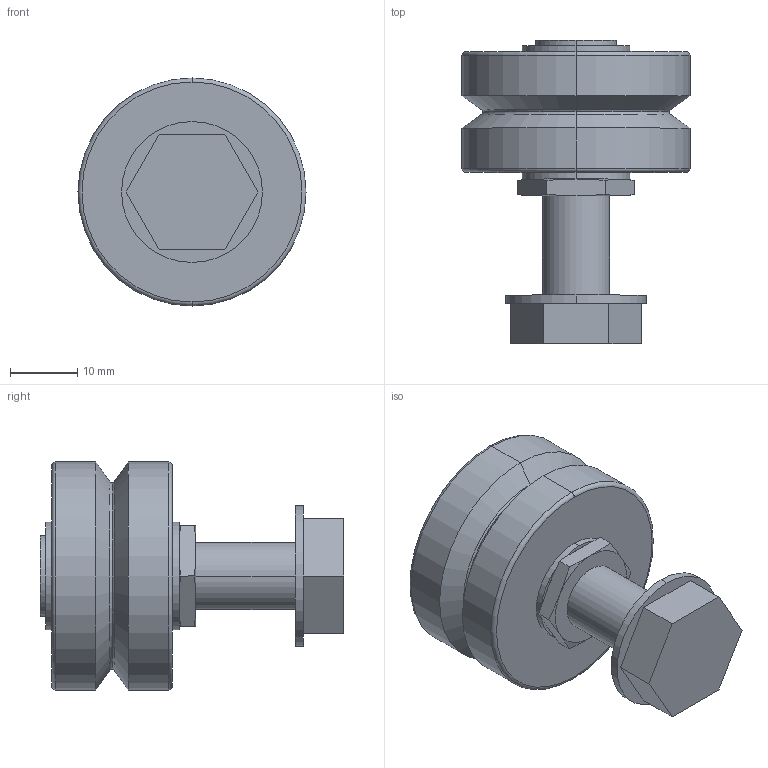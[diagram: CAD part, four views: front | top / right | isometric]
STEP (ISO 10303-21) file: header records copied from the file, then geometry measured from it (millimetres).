
FILE_DESCRIPTION(('STEP AP203'),'1');
FILE_NAME('rlfj_34_c_ns.stp','2021-08-30T07:30:18',('TraceParts'),('TraceParts S.A.'),'Spatial InterOp 3D',' ',' ');
FILE_SCHEMA(('CONFIG_CONTROL_DESIGN'));
Length unit declared in the file: millimetre
Products named in the file (1): 1
Bounding box: 34 x 45.25 x 34 mm (x, y, z)
Volume: 19535.6 mm3; surface area: 9130.5 mm2
Topology: 3 solids, 3 shells, 69 faces, 148 edges, 90 vertices
Faces by surface type: plane 29, cylinder 16, cone 16, torus 8
Entity records: 1940 total; most frequent: CARTESIAN_POINT 382, DIRECTION 330, ORIENTED_EDGE 296, EDGE_CURVE 148, AXIS2_PLACEMENT_3D 134, VERTEX_POINT 90, EDGE_LOOP 78, ADVANCED_FACE 69
